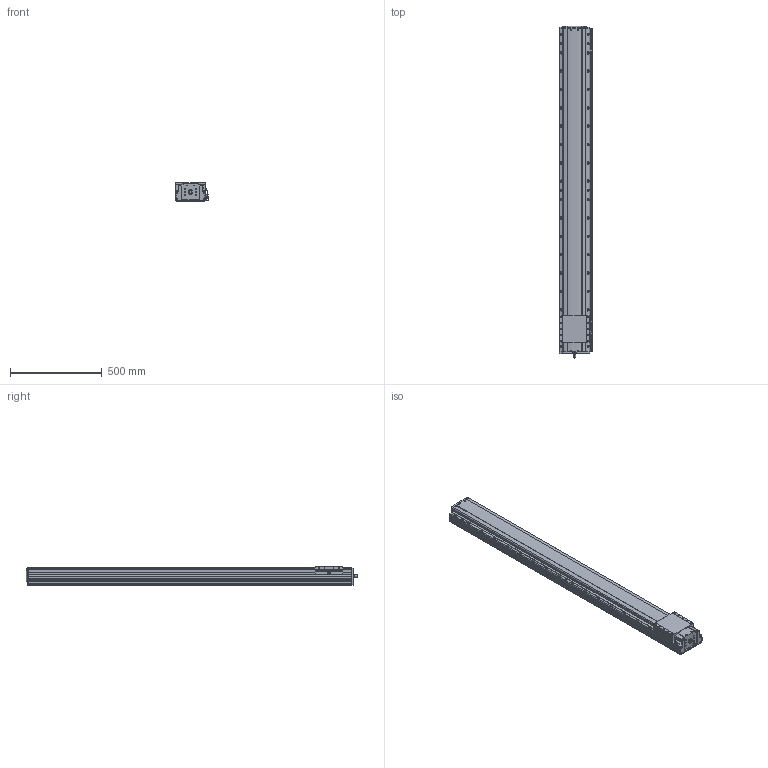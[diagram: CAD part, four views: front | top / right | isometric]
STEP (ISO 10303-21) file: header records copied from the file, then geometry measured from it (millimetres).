
FILE_DESCRIPTION(('STEP AP214'),'1');
FILE_NAME('Z:/Web/3D/PSA165/STP/PSA165-1500 (3D)/PSA165ㅁㅁ-1500+3SR.stp','2014-06-24T10:49:55',(' '),(' '),'Spatial InterOp 3D',' ',' ');
FILE_SCHEMA(('automotive_design'));
Length unit declared in the file: millimetre
Products named in the file (36): 스크루 : Round - M4.0 x 12.0; RRCV-PA160; BASE; 스크루 : Round - M4.0 x 10.0; RN15; Screw 20; SLIDE; FRCV; M3.0 x 6.0; SRL-16x17-360L; SGD-SAN150; EE-SX674; SBK-SX674-352; 스크루 : Round - M3.0 x 6.0; BHCS M4.0 x 10.0
Bounding box: 181 x 1808.8 x 104 mm (x, y, z)
Volume: 24466581.9 mm3; surface area: 1609592.6 mm2
Topology: 36 solids, 36 shells, 2612 faces, 7053 edges, 4521 vertices
Faces by surface type: plane 1439, cylinder 847, cone 233, sphere 52, bspline 25, torus 16
Entity records: 106602 total; most frequent: CARTESIAN_POINT 18820, DIRECTION 13953, ORIENTED_EDGE 13774, EDGE_CURVE 6887, AXIS2_PLACEMENT_3D 4708, LINE 4537, VECTOR 4537, VERTEX_POINT 4521
